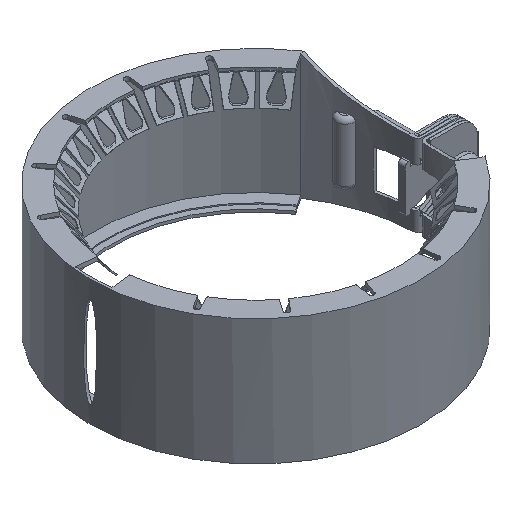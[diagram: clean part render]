
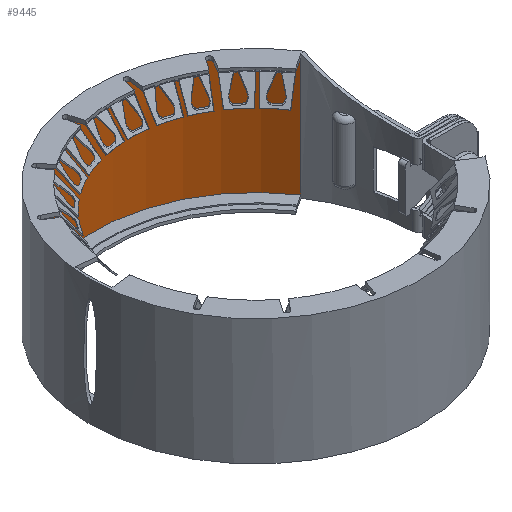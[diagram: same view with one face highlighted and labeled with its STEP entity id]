
A CAD part, isometric view. The second image highlights one B-rep face of the part: STEP entity #9445.
In plain terms, the highlighted cylindrical face has radius 46.9 mm (diameter 93.8 mm), a partial arc.
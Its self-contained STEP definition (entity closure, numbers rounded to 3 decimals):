
#1264=LINE('',#17989,#1953);
#1265=LINE('',#17990,#1954);
#1953=VECTOR('',#12495,34.3);
#1954=VECTOR('',#12496,34.3);
#2293=CIRCLE('',#10211,46.9);
#2306=CIRCLE('',#10244,46.9);
#2439=CYLINDRICAL_SURFACE('',#10245,46.9);
#2886=FACE_OUTER_BOUND('',#3385,.T.);
#3385=EDGE_LOOP('',(#8370,#8371,#8372,#8373));
#4397=VERTEX_POINT('',#17909);
#4398=VERTEX_POINT('',#17911);
#4414=VERTEX_POINT('',#17983);
#4415=VERTEX_POINT('',#17985);
#5732=EDGE_CURVE('',#4397,#4398,#2293,.T.);
#5766=EDGE_CURVE('',#4414,#4415,#2306,.T.);
#5767=EDGE_CURVE('',#4414,#4397,#1264,.T.);
#5768=EDGE_CURVE('',#4398,#4415,#1265,.T.);
#8370=ORIENTED_EDGE('',*,*,#5767,.F.);
#8371=ORIENTED_EDGE('',*,*,#5766,.T.);
#8372=ORIENTED_EDGE('',*,*,#5768,.F.);
#8373=ORIENTED_EDGE('',*,*,#5732,.F.);
#9445=ADVANCED_FACE('',(#2886),#2439,.F.);
#10211=AXIS2_PLACEMENT_3D('',#17912,#12406,#12407);
#10244=AXIS2_PLACEMENT_3D('',#17987,#12491,#12492);
#10245=AXIS2_PLACEMENT_3D('',#17988,#12493,#12494);
#12406=DIRECTION('center_axis',(0.,0.,
-1.));
#12407=DIRECTION('ref_axis',(-0.994,0.111,0.));
#12491=DIRECTION('center_axis',(0.,0.,
-1.));
#12492=DIRECTION('ref_axis',(-0.994,0.111,0.));
#12493=DIRECTION('center_axis',(0.,0.,
-1.));
#12494=DIRECTION('ref_axis',(-0.994,0.111,0.));
#12495=DIRECTION('',(0.,0.,1.));
#12496=DIRECTION('',(0.,0.,-1.));
#17909=CARTESIAN_POINT('',(-46.61,5.206,17.15));
#17911=CARTESIAN_POINT('',(39.015,26.027,17.15));
#17912=CARTESIAN_POINT('Origin',(0.,0.,
17.15));
#17983=CARTESIAN_POINT('',(-46.61,5.206,-17.15));
#17985=CARTESIAN_POINT('',(39.015,26.027,-17.15));
#17987=CARTESIAN_POINT('Origin',(0.,0.,
-17.15));
#17988=CARTESIAN_POINT('Origin',(0.,0.,
0.));
#17989=CARTESIAN_POINT('',(-46.61,5.206,-17.15));
#17990=CARTESIAN_POINT('',(39.015,26.027,-17.15));
